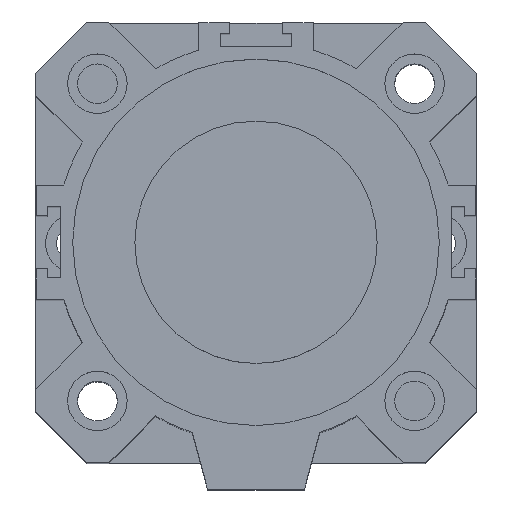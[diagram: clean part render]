
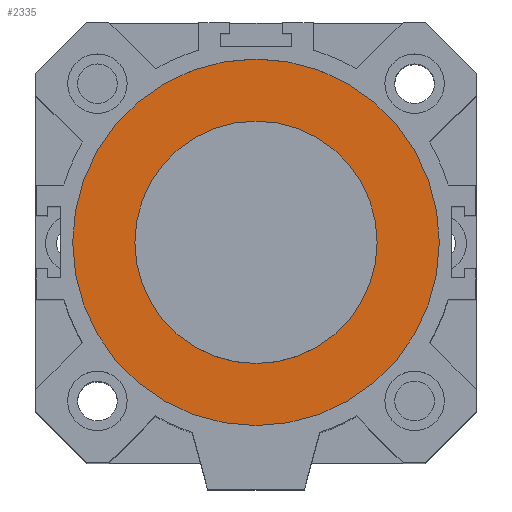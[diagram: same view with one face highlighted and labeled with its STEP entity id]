
A CAD part, top view. The second image highlights one B-rep face of the part: STEP entity #2335.
In plain terms, the highlighted planar face has unit normal (0, 0, 1).
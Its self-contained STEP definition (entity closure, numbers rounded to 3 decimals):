
#449=PLANE('',#2486);
#547=FACE_BOUND('',#766,.T.);
#548=FACE_BOUND('',#767,.T.);
#766=EDGE_LOOP('',(#1592));
#767=EDGE_LOOP('',(#1593));
#977=CIRCLE('',#2481,27.5);
#979=CIRCLE('',#2484,41.6);
#1065=VERTEX_POINT('',#3388);
#1067=VERTEX_POINT('',#3393);
#1287=EDGE_CURVE('',#1065,#1065,#977,.T.);
#1289=EDGE_CURVE('',#1067,#1067,#979,.T.);
#1592=ORIENTED_EDGE('',*,*,#1287,.F.);
#1593=ORIENTED_EDGE('',*,*,#1289,.F.);
#2335=ADVANCED_FACE('',(#547,#548),#449,.T.);
#2481=AXIS2_PLACEMENT_3D('',#3389,#2720,#2721);
#2484=AXIS2_PLACEMENT_3D('',#3394,#2726,#2727);
#2486=AXIS2_PLACEMENT_3D('',#3397,#2730,#2731);
#2720=DIRECTION('center_axis',(0.,0.,1.));
#2721=DIRECTION('ref_axis',(-1.,0.,0.));
#2726=DIRECTION('center_axis',(0.,0.,-1.));
#2727=DIRECTION('ref_axis',(-1.,0.,0.));
#2730=DIRECTION('center_axis',(0.,0.,1.));
#2731=DIRECTION('ref_axis',(1.,0.,0.));
#3388=CARTESIAN_POINT('',(27.5,0.,59.5));
#3389=CARTESIAN_POINT('Origin',(0.,0.,59.5));
#3393=CARTESIAN_POINT('',(41.6,0.,59.5));
#3394=CARTESIAN_POINT('Origin',(0.,0.,59.5));
#3397=CARTESIAN_POINT('Origin',(0.,0.,
59.5));
